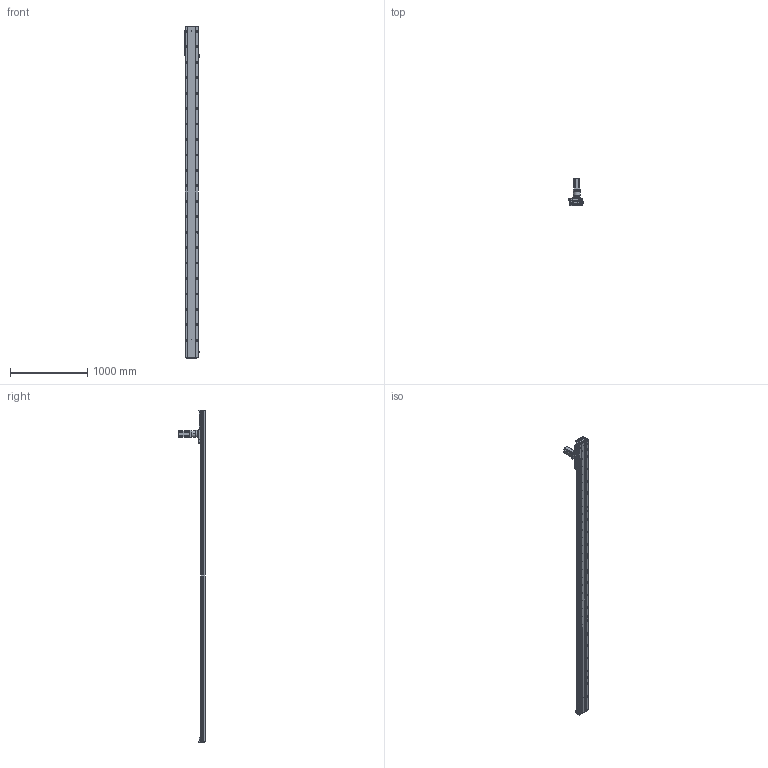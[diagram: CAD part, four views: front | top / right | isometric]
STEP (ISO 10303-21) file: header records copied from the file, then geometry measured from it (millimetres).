
FILE_DESCRIPTION (( 'STEP AP203' ), '1' );
FILE_NAME ('RY170-C-1000-UK.SLDASM_3800.step', '2021-03-03T00:49:26', ( '盈信电脑' ), ( '东莞市道滘镇水果街19号' ), 'SwSTEP 2.0', 'SolidWorks 2012', '' );
FILE_SCHEMA (( 'CONFIG_CONTROL_DESIGN' ));
Length unit declared in the file: millimetre
Products named in the file (13): RY170-1000齿条模组型材底座_3800; RY170-C-1000-UK.SLDASM_3800; RY170-喘沭賑輸; 左旋斜齿齿轮_M2_22齿_内孔20; TF080等撰; 怢湛750W萇儂ㄗ80遺ㄘ; RY170-喘謫萇儂覃誹啣; RY170-喘沭滅袉蝶輸; RY170綴裔啣ㄗ蜊秶ㄘ; RY170-1000-喘沭耀郪絳寢EGH20CA_3800; RY170外置感应片(200共用）; 覜茼ん672; 絳寢賑輸EGH20CA
Assembly tree (22 placements, depth 2):
  RY170-C-1000-UK.SLDASM_3800
    RY170-1000齿条模组型材底座_3800
    絳寢賑輸EGH20CA  x6
    RY170-1000-喘沭耀郪絳寢EGH20CA_3800  x2
    RY170綴裔啣ㄗ蜊秶ㄘ  x2
    覜茼ん672  x3
    RY170外置感应片(200共用）
    RY170-喘謫萇儂覃誹啣
    怢湛750W萇儂ㄗ80遺ㄘ
    RY170-喘沭滅袉蝶輸  x2
    TF080等撰
    左旋斜齿齿轮_M2_22齿_内孔20
    RY170-喘沭賑輸
Bounding box: 188.7 x 343.5 x 4300 mm (x, y, z)
Volume: 20702377.5 mm3; surface area: 5429742.6 mm2
Topology: 24 solids, 24 shells, 5309 faces, 15194 edges, 9647 vertices
Faces by surface type: plane 2411, cylinder 2366, cone 478, bspline 50, torus 4
Entity records: 125668 total; most frequent: CARTESIAN_POINT 31315, ORIENTED_EDGE 19942, DIRECTION 19080, EDGE_CURVE 9971, AXIS2_PLACEMENT_3D 7167, VERTEX_POINT 6477, LINE 4746, VECTOR 4746
